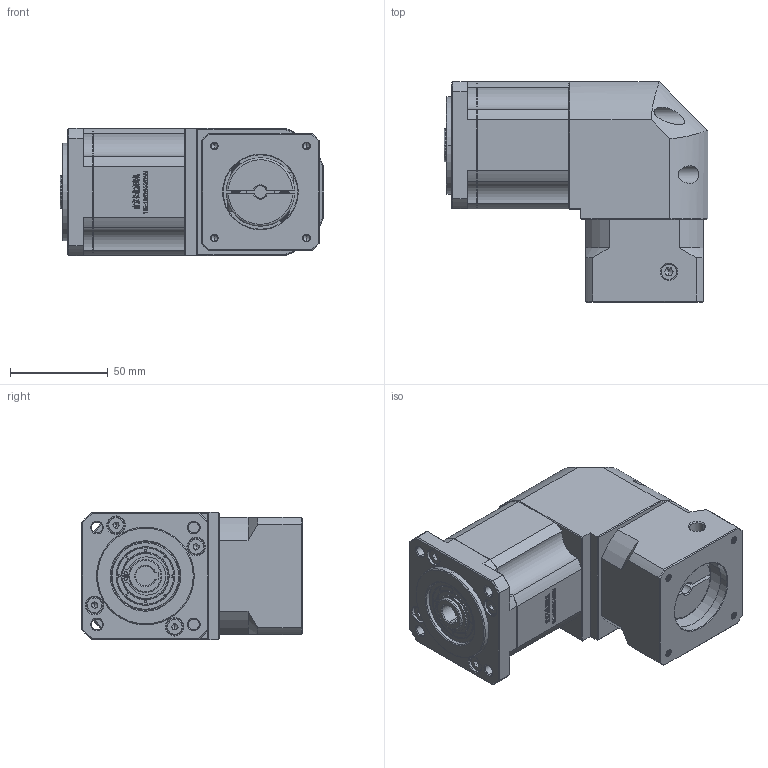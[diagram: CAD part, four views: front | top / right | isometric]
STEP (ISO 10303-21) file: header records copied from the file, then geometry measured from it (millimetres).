
FILE_DESCRIPTION (( 'STEP AP214' ), '1' );
FILE_NAME ('ZBR60-K10-L2-6.35-38.1-47.14x47.14-M4.STEP', '2022-04-19T08:14:32', ( '' ), ( 'Microsoft' ), 'SwSTEP 2.0', 'SolidWorks 2016', '' );
FILE_SCHEMA (( 'AUTOMOTIVE_DESIGN' ));
Length unit declared in the file: millimetre
Products named in the file (1): ZBR60-K10-L2-6.35-38.1-47.14x47.14-M4
Bounding box: 135 x 112.7 x 65 mm (x, y, z)
Volume: 584531.3 mm3; surface area: 82014.1 mm2
Topology: 5 solids, 5 shells, 2786 faces, 7524 edges, 4878 vertices
Faces by surface type: plane 1470, bspline 584, cylinder 387, cone 325, torus 20
Entity records: 147200 total; most frequent: CARTESIAN_POINT 50661, ORIENTED_EDGE 14992, DIRECTION 11464, EDGE_CURVE 7496, VECTOR 4990, LINE 4990, VERTEX_POINT 4878, AXIS2_PLACEMENT_3D 3237
